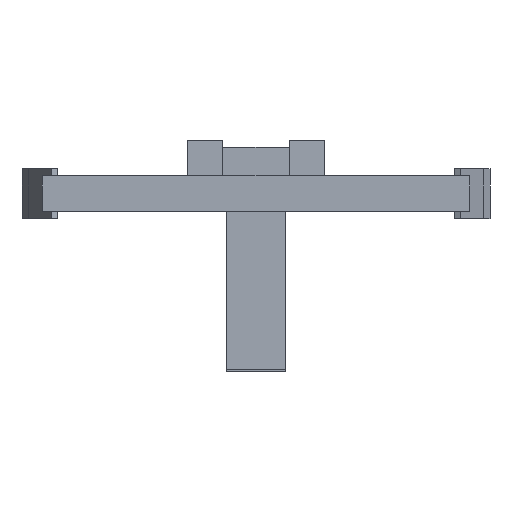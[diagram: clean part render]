
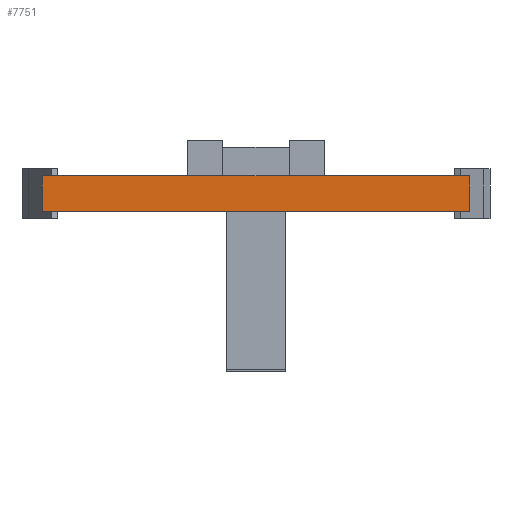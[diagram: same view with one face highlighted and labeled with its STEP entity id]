
A CAD part, front view. The second image highlights one B-rep face of the part: STEP entity #7751.
In plain terms, the highlighted planar face has unit normal (0, -1, 0).
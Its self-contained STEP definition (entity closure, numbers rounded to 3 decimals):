
#5=DIRECTION('',(1.,0.,0.));
#6=VECTOR('',#5,56.);
#7=CARTESIAN_POINT('',(-28.,125.,0.));
#8=LINE('',#7,#6);
#1085=DIRECTION('',(-1.,0.,0.));
#1086=VECTOR('',#1085,152.);
#1087=CARTESIAN_POINT('',(-28.,125.,0.));
#1088=LINE('',#1087,#1086);
#1113=DIRECTION('',(-1.,0.,0.));
#1114=VECTOR('',#1113,152.);
#1115=CARTESIAN_POINT('',(180.,125.,0.));
#1116=LINE('',#1115,#1114);
#1157=DIRECTION('',(0.,0.,-1.));
#1158=VECTOR('',#1157,30.);
#1159=CARTESIAN_POINT('',(-180.,125.,0.));
#1160=LINE('',#1159,#1158);
#1177=DIRECTION('',(-1.,0.,0.));
#1178=VECTOR('',#1177,360.);
#1179=CARTESIAN_POINT('',(180.,125.,-30.));
#1180=LINE('',#1179,#1178);
#1209=DIRECTION('',(0.,0.,-1.));
#1210=VECTOR('',#1209,30.);
#1211=CARTESIAN_POINT('',(180.,125.,0.));
#1212=LINE('',#1211,#1210);
#4697=CARTESIAN_POINT('',(180.,125.,-30.));
#4698=CARTESIAN_POINT('',(-180.,125.,-30.));
#4699=VERTEX_POINT('',#4697);
#4700=VERTEX_POINT('',#4698);
#4705=CARTESIAN_POINT('',(180.,125.,0.));
#4706=VERTEX_POINT('',#4705);
#4707=CARTESIAN_POINT('',(-180.,125.,0.));
#4708=VERTEX_POINT('',#4707);
#4713=CARTESIAN_POINT('',(28.,125.,0.));
#4714=VERTEX_POINT('',#4713);
#4763=CARTESIAN_POINT('',(-28.,125.,0.));
#4764=VERTEX_POINT('',#4763);
#7737=CARTESIAN_POINT('',(180.,125.,0.));
#7738=DIRECTION('',(0.,-1.,0.));
#7739=DIRECTION('',(-1.,0.,0.));
#7740=AXIS2_PLACEMENT_3D('',#7737,#7738,#7739);
#7741=PLANE('',#7740);
#7742=ORIENTED_EDGE('',*,*,#7597,.F.);
#7744=ORIENTED_EDGE('',*,*,#7743,.T.);
#7745=ORIENTED_EDGE('',*,*,#7719,.T.);
#7746=ORIENTED_EDGE('',*,*,#7703,.F.);
#7747=ORIENTED_EDGE('',*,*,#7575,.F.);
#7748=ORIENTED_EDGE('',*,*,#6228,.T.);
#7749=EDGE_LOOP('',(#7742,#7744,#7745,#7746,#7747,#7748));
#7750=FACE_OUTER_BOUND('',#7749,.F.);
#7751=ADVANCED_FACE('',(#7750),#7741,.T.);
#6228=EDGE_CURVE('',#4764,#4714,#8,.T.);
#7575=EDGE_CURVE('',#4764,#4708,#1088,.T.);
#7597=EDGE_CURVE('',#4706,#4714,#1116,.T.);
#7703=EDGE_CURVE('',#4708,#4700,#1160,.T.);
#7719=EDGE_CURVE('',#4699,#4700,#1180,.T.);
#7743=EDGE_CURVE('',#4706,#4699,#1212,.T.);
